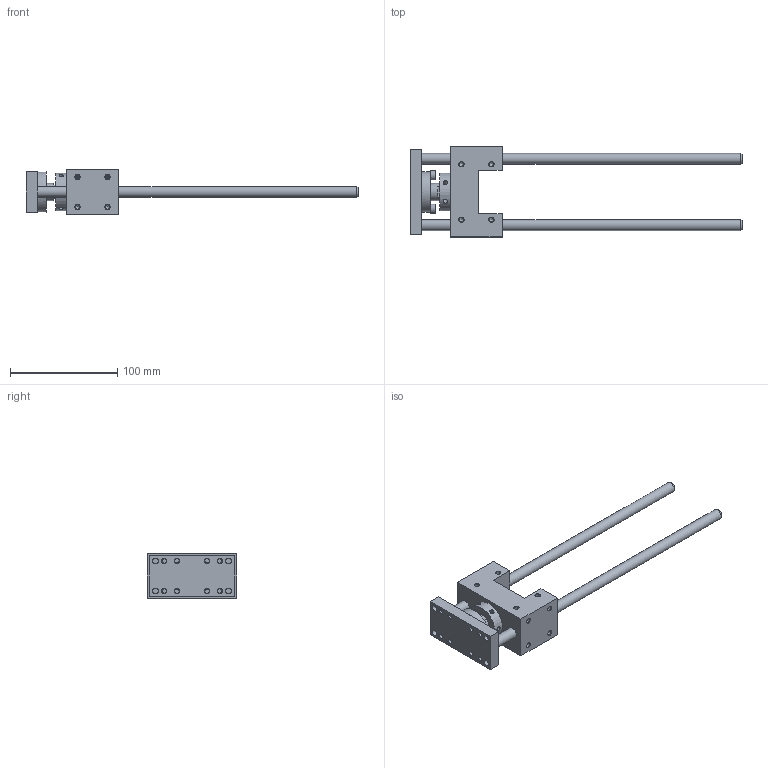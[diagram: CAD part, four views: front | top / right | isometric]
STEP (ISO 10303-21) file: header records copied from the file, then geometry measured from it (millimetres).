
FILE_DESCRIPTION( ( 'STEP AP214' ), '1' );
FILE_NAME( 'U:/Etudes/Top Solid/BIBLIO 3D AVM/TOP/PNEUMATIQUE/GUIDAGES/Type 34 (en U)/_Légère/3434110.step', '2005-05-27T12:17:09', ( ' ' ), ( ' ' ), 'XStep 1.0', ' ', ' ' );
FILE_SCHEMA( ( 'automotive_design' ) );
Length unit declared in the file: metre
Products named in the file (2): 1; 2
Bounding box: 310 x 84 x 42 mm (x, y, z)
Volume: 206016.8 mm3; surface area: 60897.3 mm2
Topology: 2 solids, 5 shells, 176 faces, 458 edges, 295 vertices
Faces by surface type: cylinder 69, plane 57, cone 50
Full cylindrical faces by diameter (mm): 4.134 x36, 4.2 x6, 5 x4, 5.5 x6, 8.5 x2, 8.647 x2, 10 x4, 16 x1, 18 x1, 20.376 x2, 22.8 x1, 25 x2, 35 x1, 38 x1
Entity records: 6505 total; most frequent: CARTESIAN_POINT 1502, DIRECTION 764, ORIENTED_EDGE 526, EDGE_LOOP 356, AXIS2_PLACEMENT_3D 341, EDGE_CURVE 263, FACE_OUTER_BOUND 245, VERTEX_POINT 231
